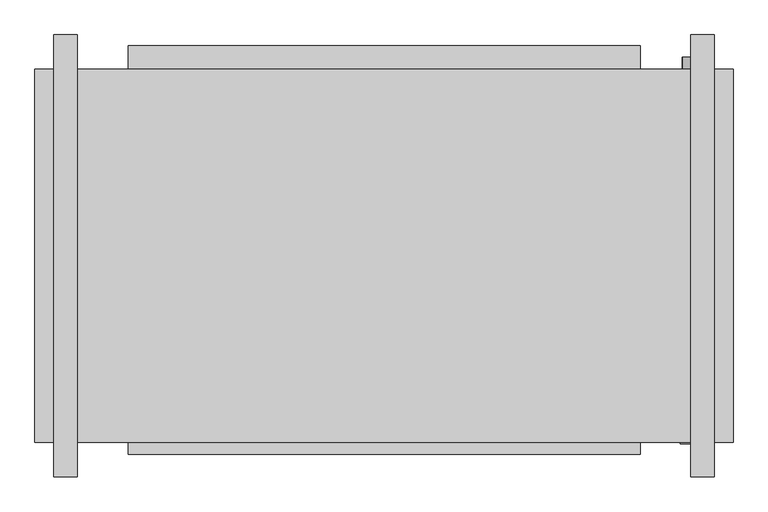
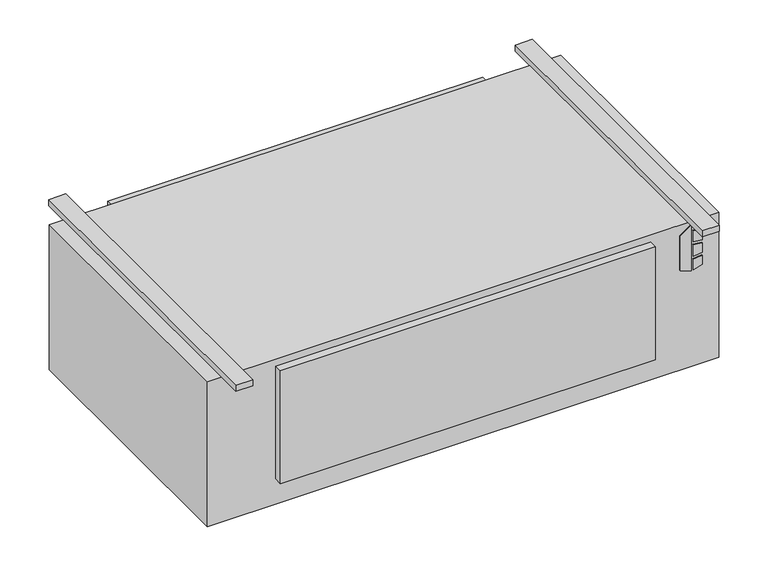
"""IFC4 building model written with IfcOpenShell, lengths in millimetres: proxy geometry, Concealed_High_Capacity_Horizontal_Cabinet_Fan_Coil_Unit_-_HXY_-_IEC_-_2-Pipe_Cool-EHeat_RH_2022 : Size 18 - 277v/60Hz/1Ph - 6 Row 12.0kW."""

from ifc_helpers import new_model, si_unit, point, frame, frame_2d, origin, origin_with_axes, place, context, project, spatial, polyline, circle_curve, trimmed, segment, composite_curve, outline, extrude, source, transform, mapped, element, save


def mechanical_equipment_18be34ff(model_context):
    return source(origin(), model_context, "Body", "SweptSolid", [
        extrude(outline(polyline([(-142.4519297, 798.5868862), (-152.4, 830.7602728), (-10.2290756, 830.7602728), (-33.2510817, 798.5868862), (-142.4519297, 798.5868862)])), frame((0.0, -649.2875, 0.0), z_axis=(0.0, 1.0, 0.0), x_axis=(0.0, 0.0, 1.0)), (0.0, 0.0, 1.0), 3.175),
        extrude(outline(polyline([(-63.4526443, 837.5186058), (-66.6550368, 863.6), (-37.4261958, 863.6), (-29.3617807, 837.5186058), (-63.4526443, 837.5186058)])), frame((0.0, -649.2875, 0.0), z_axis=(0.0, 1.0, 0.0), x_axis=(0.0, 0.0, 1.0)), (0.0, 0.0, 1.0), 3.175),
        extrude(outline(polyline([(-115.3161712, 863.6), (-118.9816721, 837.5186058), (-152.4, 837.5186058), (-143.7657628, 863.6), (-115.3161712, 863.6)])), frame((0.0, -649.2875, 0.0), z_axis=(0.0, 1.0, 0.0), x_axis=(0.0, 0.0, 1.0)), (0.0, 0.0, 1.0), 3.175),
        extrude(outline(polyline([(-76.0010097, 863.6), (-73.7191834, 837.5186058), (-109.6567319, 837.5186058), (-106.9154669, 863.6), (-76.0010097, 863.6)])), frame((0.0, -649.2875, 0.0), z_axis=(0.0, 1.0, 0.0), x_axis=(0.0, 0.0, 1.0)), (0.0, 0.0, 1.0), 3.175),
        extrude(outline(composite_curve([segment(trimmed(circle_curve(frame_2d((-406.4, 812.8)), 9.525), [point((-406.4, 803.275))], [point((-406.4, 822.325))], False, "CARTESIAN"), True, "CONTINUOUS"), segment(trimmed(circle_curve(frame_2d((-406.4, 812.8)), 9.525), [point((-406.4, 822.325))], [point((-406.4, 803.275))], False, "CARTESIAN"), True, "CONTINUOUS")], self_intersect=False)), frame((0.0, 169.8625, 0.0), z_axis=(0.0, 1.0, 0.0), x_axis=(0.0, 0.0, 1.0)), (0.0, 0.0, 1.0), 25.4),
        extrude(outline(composite_curve([segment(trimmed(circle_curve(frame_2d((-330.2, 812.8)), 7.9375), [point((-330.2, 804.8625))], [point((-330.2, 820.7375))], False, "CARTESIAN"), True, "CONTINUOUS"), segment(trimmed(circle_curve(frame_2d((-330.2, 812.8)), 7.9375), [point((-330.2, 820.7375))], [point((-330.2, 804.8625))], False, "CARTESIAN"), True, "CONTINUOUS")], self_intersect=False)), frame((0.0, 169.8625, 0.0), z_axis=(0.0, 1.0, 0.0), x_axis=(0.0, 0.0, 1.0)), (0.0, 0.0, 1.0), 25.4),
        extrude(outline(composite_curve([segment(trimmed(circle_curve(frame_2d((-254.0, 812.8)), 7.9375), [point((-254.0, 804.8625))], [point((-254.0, 820.7375))], False, "CARTESIAN"), True, "CONTINUOUS"), segment(trimmed(circle_curve(frame_2d((-254.0, 812.8)), 7.9375), [point((-254.0, 820.7375))], [point((-254.0, 804.8625))], False, "CARTESIAN"), True, "CONTINUOUS")], self_intersect=False)), frame((0.0, 169.8625, 0.0), z_axis=(0.0, 1.0, 0.0), x_axis=(0.0, 0.0, 1.0)), (0.0, 0.0, 1.0), 25.4),
        extrude(outline(polyline([(914.4, 169.8625), (914.4, -646.1125), (-609.6, -646.1125), (-609.6, 169.8625), (914.4, 169.8625)])), frame((0.0, 0.0, -457.2), z_axis=(0.0, 0.0, 1.0), x_axis=(1.0, 0.0, 0.0)), (0.0, 0.0, 1.0), 457.2),
        extrude(outline(polyline([(-406.4, 220.6625), (711.2, 220.6625), (711.2, 169.8625), (-406.4, 169.8625), (-406.4, 220.6625)])), frame((0.0, 0.0, -377.825), z_axis=(0.0, 0.0, 1.0), x_axis=(1.0, 0.0, 0.0)), (0.0, 0.0, 1.0), 349.25),
        extrude(outline(polyline([(-517.525, 244.475), (-517.525, -720.725), (-568.325, -720.725), (-568.325, 244.475), (-517.525, 244.475)])), origin_with_axes(), (0.0, 0.0, 1.0), 19.05),
        extrude(outline(polyline([(873.125, 244.475), (873.125, -720.725), (822.325, -720.725), (822.325, 244.475), (873.125, 244.475)])), origin_with_axes(), (0.0, 0.0, 1.0), 19.05),
        extrude(outline(polyline([(711.2, -671.5125), (-406.4, -671.5125), (-406.4, -646.1125), (711.2, -646.1125), (711.2, -671.5125)])), frame((0.0, 0.0, -377.825), z_axis=(0.0, 0.0, 1.0), x_axis=(1.0, 0.0, 0.0)), (0.0, 0.0, 1.0), 355.6),
    ])


if __name__ == "__main__":
    model = new_model("IFC4")
    model_context = context("Model", 3, world=origin())
    ifc_project = project(units=[si_unit("LENGTHUNIT", "METRE", prefix="MILLI")], contexts=[model_context])
    site = spatial("IfcSite", under=ifc_project)
    building = spatial("IfcBuilding", under=site)
    placement = place(None, origin())
    mechanical_equipment_shape = mechanical_equipment_18be34ff(model_context)
    element("IfcBuildingElementProxy", 1, Name="Concealed_High_Capacity_Horizontal_Cabinet_Fan_Coil_Unit_-_HXY_-_IEC_-_2-Pipe_Cool-EHeat_RH_2022 : Size 18 - 277v/60Hz/1Ph - 6 Row 12.0kW", ObjectType="Concealed_High_Capacity_Horizontal_Cabinet_Fan_Coil_Unit_-_HXY_-_IEC_-_2-Pipe_Cool-EHeat_RH_2022 : Size 18 - 277v/60Hz/1Ph - 6 Row 12.0kW", at=placement, inside=building, context=model_context, shape_type="MappedRepresentation", body=[
        mapped(mechanical_equipment_shape, transform((0.0, 0.0, 0.0), x_axis=(1.0, 0.0, 0.0), y_axis=(0.0, 1.0, 0.0), z_axis=(0.0, 0.0, 1.0))),
    ])
    save(model, "model.ifc")
